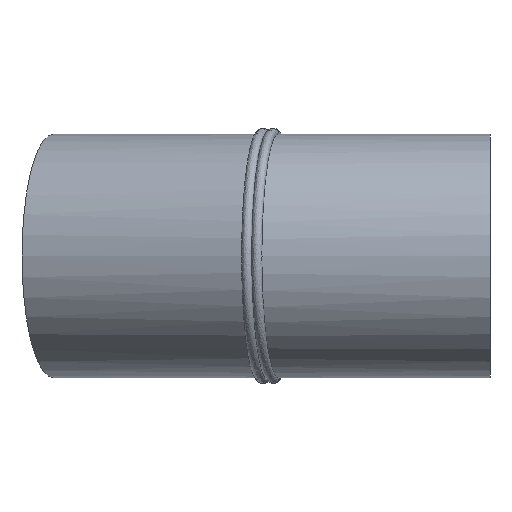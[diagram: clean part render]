
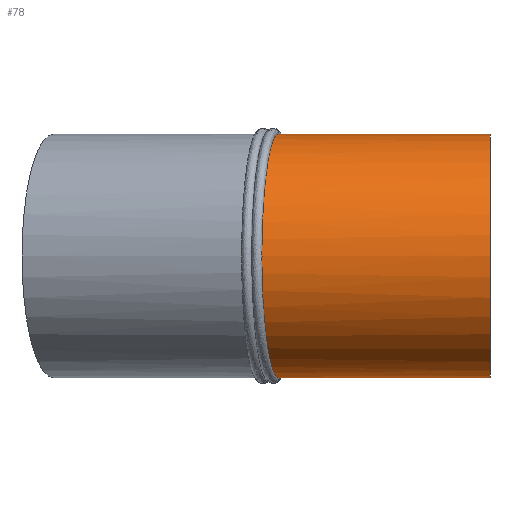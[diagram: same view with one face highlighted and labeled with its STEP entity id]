
A CAD part, left-side view. The second image highlights one B-rep face of the part: STEP entity #78.
In plain terms, the highlighted cylindrical face has radius 177.5 mm (diameter 355 mm), a full revolution.
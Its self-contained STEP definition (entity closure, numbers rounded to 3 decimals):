
#32=B_SPLINE_CURVE_WITH_KNOTS('',3,(#131,#132,#133,#134,#135,#136,#137,
#138,#139,#140,#141,#142,#143,#144,#145,#146,#147,#148,#149,#150,#151,#152,
#153,#154,#155,#156,#157,#158,#159,#160,#161,#162,#163,#164,#165,#166,#167,
#168,#169,#170,#171,#172,#173,#174,#175,#176,#177,#178,#179,#180,#181,#182,
#183,#184,#185,#186,#187,#188,#189,#190,#191,#192,#193,#194,#195,#196,#197,
#198,#199,#200,#201,#202,#203,#204,#205,#206,#207,#208,#209),
 .UNSPECIFIED.,.T.,.F.,(1,1,1,1,1,1,1,1,1,1,1,1,1,1,1,1,1,1,1,1,1,1,1,1,
1,1,1,1,1,1,1,1,1,1,1,1,1,1,1,1,1,1,1,1,1,1,1,1,1,1,1,1,1,1,1,1,1,1,1,1,
1,1,1,1,1,1,1,1,1,1,1,1,1,1,1,1,1,1,1,1,1,1,1),(-0.053,-0.035,
-0.018,0.,0.018,0.035,
0.053,0.07,0.088,0.105,
0.114,0.123,0.132,0.141,
0.158,0.176,0.193,0.211,
0.22,0.228,0.246,0.264,
0.281,0.299,0.307,0.316,
0.334,0.351,0.369,0.378,
0.386,0.395,0.404,0.422,
0.439,0.457,0.466,0.474,
0.492,0.509,0.527,0.545,0.562,
0.597,0.615,0.632,0.65,
0.668,0.685,0.694,0.703,
0.72,0.738,0.755,0.773,
0.782,0.791,0.808,0.826,
0.834,0.843,0.861,0.878,
0.887,0.896,0.914,0.931,
0.94,0.949,0.966,0.984,
1.001,1.019,1.028,1.036,1.054,
1.072,1.089,1.107,1.124,1.142,
1.159,1.177),.UNSPECIFIED.);
#34=ORIENTED_EDGE('',*,*,#44,.T.);
#35=ORIENTED_EDGE('',*,*,#45,.F.);
#44=EDGE_CURVE('',#49,#49,#54,.T.);
#45=EDGE_CURVE('',#50,#50,#32,.T.);
#49=VERTEX_POINT('',#130);
#50=VERTEX_POINT('',#210);
#54=CIRCLE('',#99,177.5);
#56=EDGE_LOOP('',(#34));
#57=EDGE_LOOP('',(#35));
#66=FACE_BOUND('',#56,.T.);
#67=FACE_BOUND('',#57,.T.);
#76=CYLINDRICAL_SURFACE('',#98,177.5);
#78=ADVANCED_FACE('',(#66,#67),#76,.T.);
#98=AXIS2_PLACEMENT_3D('',#128,#109,#110);
#99=AXIS2_PLACEMENT_3D('',#129,#111,#112);
#109=DIRECTION('',(0.,-1.,0.));
#110=DIRECTION('',(0.,0.,-1.));
#111=DIRECTION('',(0.,1.,0.));
#112=DIRECTION('',(1.,0.,0.));
#128=CARTESIAN_POINT('',(0.,650.,0.));
#129=CARTESIAN_POINT('',(0.,0.,0.));
#130=CARTESIAN_POINT('',(177.5,0.,0.));
#131=CARTESIAN_POINT('',(17.343,306.06,-176.931));
#132=CARTESIAN_POINT('',(0.024,308.363,-177.786));
#133=CARTESIAN_POINT('',(-17.438,310.689,-176.927));
#134=CARTESIAN_POINT('',(-34.617,312.983,-174.382));
#135=CARTESIAN_POINT('',(-51.563,315.25,-170.142));
#136=CARTESIAN_POINT('',(-67.804,317.428,-164.339));
#137=CARTESIAN_POINT('',(-83.373,319.519,-157.017));
#138=CARTESIAN_POINT('',(-95.8,321.191,-149.626));
#139=CARTESIAN_POINT('',(-105.352,322.479,-142.943));
#140=CARTESIAN_POINT('',(-112.233,323.406,-137.605));
#141=CARTESIAN_POINT('',(-118.854,324.3,-131.93));
#142=CARTESIAN_POINT('',(-127.331,325.446,-123.905));
#143=CARTESIAN_POINT('',(-137.124,326.769,-113.16));
#144=CARTESIAN_POINT('',(-147.61,328.19,-99.095));
#145=CARTESIAN_POINT('',(-156.634,329.413,-84.109));
#146=CARTESIAN_POINT('',(-162.912,330.266,-70.891));
#147=CARTESIAN_POINT('',(-167.124,330.837,-60.012));
#148=CARTESIAN_POINT('',(-170.81,331.338,-48.887));
#149=CARTESIAN_POINT('',(-174.363,331.821,-34.737));
#150=CARTESIAN_POINT('',(-176.942,332.171,-17.316));
#151=CARTESIAN_POINT('',(-177.781,332.286,0.025));
#152=CARTESIAN_POINT('',(-177.075,332.19,14.466));
#153=CARTESIAN_POINT('',(-175.659,331.997,25.993));
#154=CARTESIAN_POINT('',(-173.658,331.725,37.54));
#155=CARTESIAN_POINT('',(-170.106,331.242,51.701));
#156=CARTESIAN_POINT('',(-164.166,330.436,68.251));
#157=CARTESIAN_POINT('',(-157.915,329.587,81.418));
#158=CARTESIAN_POINT('',(-152.128,328.802,91.591));
#159=CARTESIAN_POINT('',(-147.436,328.167,98.966));
#160=CARTESIAN_POINT('',(-142.391,327.483,106.097));
#161=CARTESIAN_POINT('',(-135.18,326.507,115.292));
#162=CARTESIAN_POINT('',(-125.384,325.182,126.044));
#163=CARTESIAN_POINT('',(-112.372,323.425,137.769));
#164=CARTESIAN_POINT('',(-100.688,321.85,146.381));
#165=CARTESIAN_POINT('',(-90.823,320.521,152.587));
#166=CARTESIAN_POINT('',(-80.752,319.167,158.251));
#167=CARTESIAN_POINT('',(-67.751,317.421,164.36));
#168=CARTESIAN_POINT('',(-51.532,315.246,170.15));
#169=CARTESIAN_POINT('',(-34.601,312.981,174.385));
#170=CARTESIAN_POINT('',(-17.411,310.686,176.929));
#171=CARTESIAN_POINT('',(5.807,307.592,178.07));
#172=CARTESIAN_POINT('',(28.961,304.517,175.795));
#173=CARTESIAN_POINT('',(51.525,301.53,170.154));
#174=CARTESIAN_POINT('',(67.906,299.366,164.306));
#175=CARTESIAN_POINT('',(83.714,297.282,156.84));
#176=CARTESIAN_POINT('',(98.516,295.334,147.985));
#177=CARTESIAN_POINT('',(110.084,293.814,139.449));
#178=CARTESIAN_POINT('',(118.855,292.664,131.928));
#179=CARTESIAN_POINT('',(127.325,291.553,123.911));
#180=CARTESIAN_POINT('',(137.13,290.269,113.153));
#181=CARTESIAN_POINT('',(147.615,288.898,99.087));
#182=CARTESIAN_POINT('',(156.637,287.72,84.104));
#183=CARTESIAN_POINT('',(162.92,286.9,70.873));
#184=CARTESIAN_POINT('',(167.129,286.351,59.998));
#185=CARTESIAN_POINT('',(170.814,285.871,48.876));
#186=CARTESIAN_POINT('',(174.356,285.409,34.744));
#187=CARTESIAN_POINT('',(176.489,285.132,20.415));
#188=CARTESIAN_POINT('',(177.353,285.019,8.824));
#189=CARTESIAN_POINT('',(177.646,284.981,-2.88));
#190=CARTESIAN_POINT('',(176.927,285.075,-17.495));
#191=CARTESIAN_POINT('',(174.763,285.356,-32.));
#192=CARTESIAN_POINT('',(172.189,285.692,-43.392));
#193=CARTESIAN_POINT('',(169.043,286.102,-54.687));
#194=CARTESIAN_POINT('',(164.11,286.745,-68.374));
#195=CARTESIAN_POINT('',(157.898,287.555,-81.443));
#196=CARTESIAN_POINT('',(152.163,288.304,-91.532));
#197=CARTESIAN_POINT('',(145.893,289.123,-101.396));
#198=CARTESIAN_POINT('',(137.191,290.261,-113.079));
#199=CARTESIAN_POINT('',(125.388,291.807,-126.04));
#200=CARTESIAN_POINT('',(112.43,293.506,-137.723));
#201=CARTESIAN_POINT('',(100.689,295.049,-146.379));
#202=CARTESIAN_POINT('',(90.868,296.34,-152.56));
#203=CARTESIAN_POINT('',(80.718,297.677,-158.272));
#204=CARTESIAN_POINT('',(67.589,299.408,-164.437));
#205=CARTESIAN_POINT('',(51.114,301.585,-170.277));
#206=CARTESIAN_POINT('',(34.357,303.803,-174.425));
#207=CARTESIAN_POINT('',(17.343,306.06,-176.931));
#208=CARTESIAN_POINT('',(0.024,308.363,-177.786));
#209=CARTESIAN_POINT('',(-17.438,310.689,-176.927));
#210=CARTESIAN_POINT('',(0.,308.367,-177.5));
